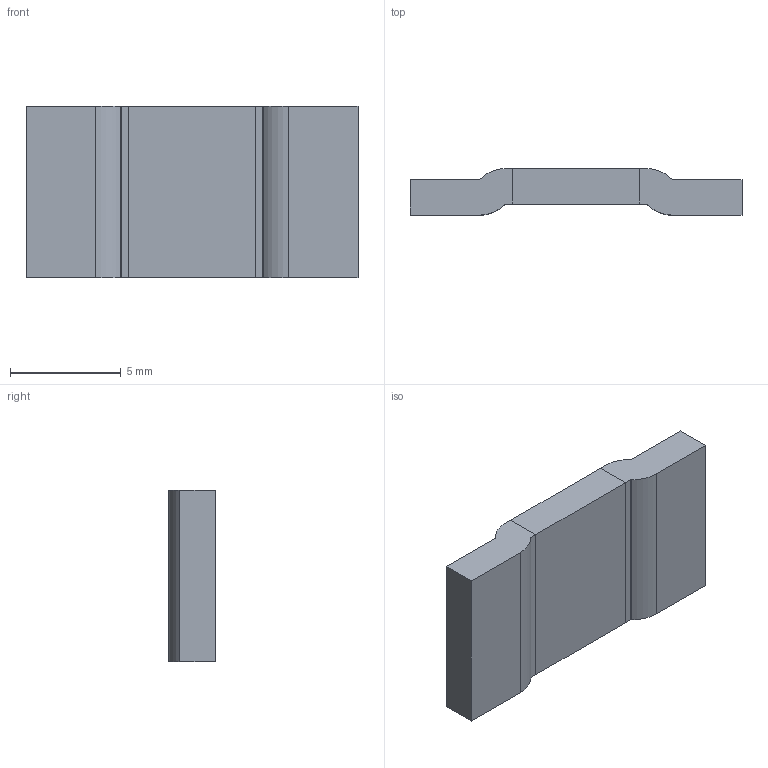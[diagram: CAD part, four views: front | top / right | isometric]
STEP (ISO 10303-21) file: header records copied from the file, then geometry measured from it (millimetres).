
FILE_DESCRIPTION (( 'STEP AP203' ), '1' );
FILE_NAME ('5930-0.2m次.STEP', '2023-11-22T07:57:57', ( 'meks@163.com' ), ( '' ), 'SwSTEP 2.0', 'SolidWorks 2020', '' );
FILE_SCHEMA (( 'CONFIG_CONTROL_DESIGN' ));
Length unit declared in the file: millimetre
Products named in the file (1): 5930-0.2m次
Bounding box: 15 x 2.1 x 7.75 mm (x, y, z)
Volume: 189.4 mm3; surface area: 360.1 mm2
Topology: 3 solids, 3 shells, 30 faces, 72 edges, 48 vertices
Faces by surface type: plane 26, cylinder 4
Entity records: 937 total; most frequent: CARTESIAN_POINT 151, ORIENTED_EDGE 144, DIRECTION 142, EDGE_CURVE 72, VECTOR 64, LINE 64, VERTEX_POINT 48, AXIS2_PLACEMENT_3D 39
